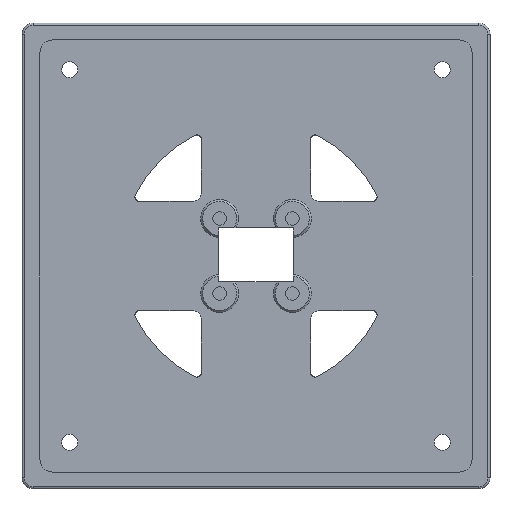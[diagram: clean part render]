
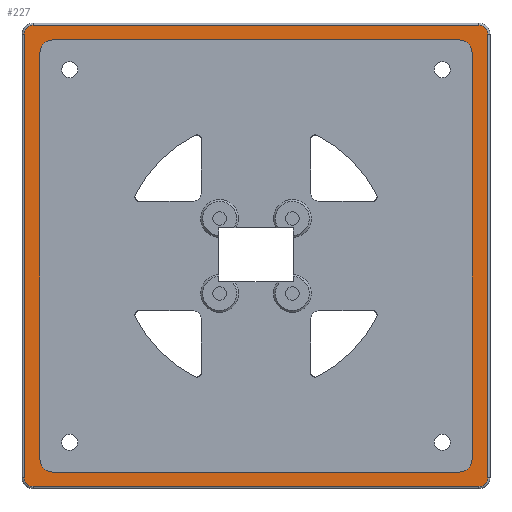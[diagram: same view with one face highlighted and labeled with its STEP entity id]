
A CAD part, top view. The second image highlights one B-rep face of the part: STEP entity #227.
In plain terms, the highlighted planar face has unit normal (0, 0, 1).
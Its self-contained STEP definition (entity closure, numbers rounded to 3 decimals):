
#227=ADVANCED_FACE('',(#563,#564),#306,.T.);
#306=PLANE('',#1595);
#379=LINE('',#2358,#483);
#380=LINE('',#2363,#484);
#381=LINE('',#2367,#485);
#382=LINE('',#2371,#486);
#383=LINE('',#2374,#487);
#384=LINE('',#2379,#488);
#385=LINE('',#2383,#489);
#386=LINE('',#2387,#490);
#483=VECTOR('',#1880,1.);
#484=VECTOR('',#1883,1.);
#485=VECTOR('',#1886,1.);
#486=VECTOR('',#1889,1.);
#487=VECTOR('',#1892,1.);
#488=VECTOR('',#1895,1.);
#489=VECTOR('',#1898,1.);
#490=VECTOR('',#1901,1.);
#563=FACE_BOUND('',#613,.T.);
#564=FACE_BOUND('',#614,.T.);
#613=EDGE_LOOP('',(#807,#808,#809,#810,#811,#812,#813,#814));
#614=EDGE_LOOP('',(#815,#816,#817,#818,#819,#820,#821,#822));
#807=ORIENTED_EDGE('',*,*,#1339,.T.);
#808=ORIENTED_EDGE('',*,*,#1340,.T.);
#809=ORIENTED_EDGE('',*,*,#1341,.T.);
#810=ORIENTED_EDGE('',*,*,#1342,.T.);
#811=ORIENTED_EDGE('',*,*,#1343,.T.);
#812=ORIENTED_EDGE('',*,*,#1344,.T.);
#813=ORIENTED_EDGE('',*,*,#1345,.T.);
#814=ORIENTED_EDGE('',*,*,#1346,.T.);
#815=ORIENTED_EDGE('',*,*,#1347,.F.);
#816=ORIENTED_EDGE('',*,*,#1348,.T.);
#817=ORIENTED_EDGE('',*,*,#1349,.F.);
#818=ORIENTED_EDGE('',*,*,#1350,.T.);
#819=ORIENTED_EDGE('',*,*,#1351,.F.);
#820=ORIENTED_EDGE('',*,*,#1352,.T.);
#821=ORIENTED_EDGE('',*,*,#1353,.F.);
#822=ORIENTED_EDGE('',*,*,#1354,.T.);
#1199=VERTEX_POINT('',#2359);
#1200=VERTEX_POINT('',#2360);
#1201=VERTEX_POINT('',#2362);
#1202=VERTEX_POINT('',#2364);
#1203=VERTEX_POINT('',#2366);
#1204=VERTEX_POINT('',#2368);
#1205=VERTEX_POINT('',#2370);
#1206=VERTEX_POINT('',#2372);
#1207=VERTEX_POINT('',#2375);
#1208=VERTEX_POINT('',#2376);
#1209=VERTEX_POINT('',#2378);
#1210=VERTEX_POINT('',#2380);
#1211=VERTEX_POINT('',#2382);
#1212=VERTEX_POINT('',#2384);
#1213=VERTEX_POINT('',#2386);
#1214=VERTEX_POINT('',#2388);
#1339=EDGE_CURVE('',#1199,#1200,#379,.T.);
#1340=EDGE_CURVE('',#1200,#1201,#1487,.T.);
#1341=EDGE_CURVE('',#1201,#1202,#380,.T.);
#1342=EDGE_CURVE('',#1202,#1203,#1488,.T.);
#1343=EDGE_CURVE('',#1203,#1204,#381,.T.);
#1344=EDGE_CURVE('',#1204,#1205,#1489,.T.);
#1345=EDGE_CURVE('',#1205,#1206,#382,.T.);
#1346=EDGE_CURVE('',#1206,#1199,#1490,.T.);
#1347=EDGE_CURVE('',#1207,#1208,#383,.T.);
#1348=EDGE_CURVE('',#1207,#1209,#1491,.T.);
#1349=EDGE_CURVE('',#1210,#1209,#384,.T.);
#1350=EDGE_CURVE('',#1210,#1211,#1492,.T.);
#1351=EDGE_CURVE('',#1212,#1211,#385,.T.);
#1352=EDGE_CURVE('',#1212,#1213,#1493,.T.);
#1353=EDGE_CURVE('',#1214,#1213,#386,.T.);
#1354=EDGE_CURVE('',#1214,#1208,#1494,.T.);
#1487=CIRCLE('',#1587,2.);
#1488=CIRCLE('',#1588,2.);
#1489=CIRCLE('',#1589,2.);
#1490=CIRCLE('',#1590,2.);
#1491=CIRCLE('',#1591,2.8);
#1492=CIRCLE('',#1592,2.8);
#1493=CIRCLE('',#1593,2.8);
#1494=CIRCLE('',#1594,2.8);
#1587=AXIS2_PLACEMENT_3D('',#2361,#1881,#1882);
#1588=AXIS2_PLACEMENT_3D('',#2365,#1884,#1885);
#1589=AXIS2_PLACEMENT_3D('',#2369,#1887,#1888);
#1590=AXIS2_PLACEMENT_3D('',#2373,#1890,#1891);
#1591=AXIS2_PLACEMENT_3D('',#2377,#1893,#1894);
#1592=AXIS2_PLACEMENT_3D('',#2381,#1896,#1897);
#1593=AXIS2_PLACEMENT_3D('',#2385,#1899,#1900);
#1594=AXIS2_PLACEMENT_3D('',#2389,#1902,#1903);
#1595=AXIS2_PLACEMENT_3D('',#2390,#1904,#1905);
#1880=DIRECTION('',(-1.,0.,0.));
#1881=DIRECTION('',(0.,0.,1.));
#1882=DIRECTION('',(1.,0.,0.));
#1883=DIRECTION('',(0.,-1.,0.));
#1884=DIRECTION('',(0.,0.,1.));
#1885=DIRECTION('',(1.,0.,0.));
#1886=DIRECTION('',(1.,0.,0.));
#1887=DIRECTION('',(0.,0.,1.));
#1888=DIRECTION('',(1.,0.,0.));
#1889=DIRECTION('',(0.,1.,0.));
#1890=DIRECTION('',(0.,0.,1.));
#1891=DIRECTION('',(1.,0.,0.));
#1892=DIRECTION('',(0.,1.,0.));
#1893=DIRECTION('',(0.,0.,-1.));
#1894=DIRECTION('',(1.,0.,0.));
#1895=DIRECTION('',(1.,0.,0.));
#1896=DIRECTION('',(0.,0.,-1.));
#1897=DIRECTION('',(1.,0.,0.));
#1898=DIRECTION('',(0.,-1.,0.));
#1899=DIRECTION('',(0.,0.,-1.));
#1900=DIRECTION('',(1.,0.,0.));
#1901=DIRECTION('',(-1.,0.,0.));
#1902=DIRECTION('',(0.,0.,-1.));
#1903=DIRECTION('',(1.,0.,0.));
#1904=DIRECTION('',(0.,0.,1.));
#1905=DIRECTION('',(1.,0.,0.));
#2358=CARTESIAN_POINT('',(100.5,185.75,28.));
#2359=CARTESIAN_POINT('',(198.5,185.75,28.));
#2360=CARTESIAN_POINT('',(100.5,185.75,28.));
#2361=CARTESIAN_POINT('',(100.5,183.75,28.));
#2362=CARTESIAN_POINT('',(98.5,183.75,28.));
#2363=CARTESIAN_POINT('',(98.5,86.25,28.));
#2364=CARTESIAN_POINT('',(98.5,86.25,28.));
#2365=CARTESIAN_POINT('',(100.5,86.25,28.));
#2366=CARTESIAN_POINT('',(100.5,84.25,28.));
#2367=CARTESIAN_POINT('',(198.5,84.25,28.));
#2368=CARTESIAN_POINT('',(198.5,84.25,28.));
#2369=CARTESIAN_POINT('',(198.5,86.25,28.));
#2370=CARTESIAN_POINT('',(200.5,86.25,28.));
#2371=CARTESIAN_POINT('',(200.5,183.75,28.));
#2372=CARTESIAN_POINT('',(200.5,183.75,28.));
#2373=CARTESIAN_POINT('',(198.5,183.75,28.));
#2374=CARTESIAN_POINT('',(197.05,85.,28.));
#2375=CARTESIAN_POINT('',(197.05,90.25,28.));
#2376=CARTESIAN_POINT('',(197.05,179.75,28.));
#2377=CARTESIAN_POINT('',(194.25,90.25,28.));
#2378=CARTESIAN_POINT('',(194.25,87.45,28.));
#2379=CARTESIAN_POINT('',(100.,87.45,28.));
#2380=CARTESIAN_POINT('',(104.75,87.45,28.));
#2381=CARTESIAN_POINT('',(104.75,90.25,28.));
#2382=CARTESIAN_POINT('',(101.95,90.25,28.));
#2383=CARTESIAN_POINT('',(101.95,185.,28.));
#2384=CARTESIAN_POINT('',(101.95,179.75,28.));
#2385=CARTESIAN_POINT('',(104.75,179.75,28.));
#2386=CARTESIAN_POINT('',(104.75,182.55,28.));
#2387=CARTESIAN_POINT('',(199.,182.55,28.));
#2388=CARTESIAN_POINT('',(194.25,182.55,28.));
#2389=CARTESIAN_POINT('',(194.25,179.75,28.));
#2390=CARTESIAN_POINT('',(199.,185.,28.));
